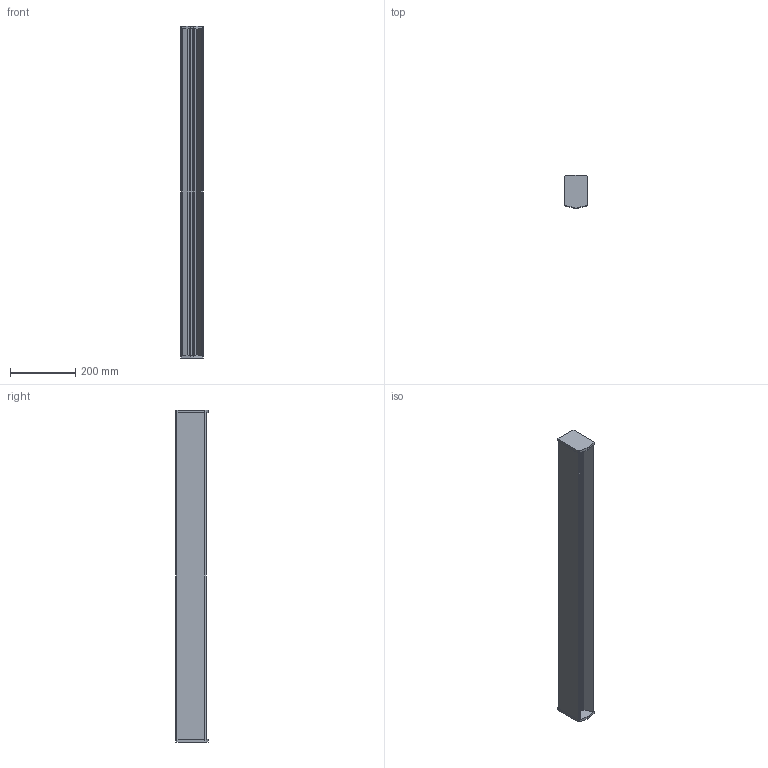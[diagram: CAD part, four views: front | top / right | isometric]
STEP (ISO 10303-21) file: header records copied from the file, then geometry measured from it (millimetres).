
FILE_DESCRIPTION (( 'STEP AP214' ), '1' );
FILE_NAME ('Zelle Extrusion CAD.STEP', '2019-01-11T05:05:02', ( '' ), ( '' ), 'SwSTEP 2.0', 'SolidWorks 2017', '' );
FILE_SCHEMA (( 'AUTOMOTIVE_DESIGN' ));
Length unit declared in the file: millimetre
Products named in the file (1): Zelle Extrusion CAD
Bounding box: 67.8 x 99.94 x 1016 mm (x, y, z)
Volume: 4408507.1 mm3; surface area: 577373.4 mm2
Topology: 7 solids, 7 shells, 346 faces, 996 edges, 664 vertices
Faces by surface type: plane 184, cylinder 162
Entity records: 11512 total; most frequent: DIRECTION 2014, CARTESIAN_POINT 2007, ORIENTED_EDGE 1992, EDGE_CURVE 996, VECTOR 672, LINE 672, AXIS2_PLACEMENT_3D 671, VERTEX_POINT 664
